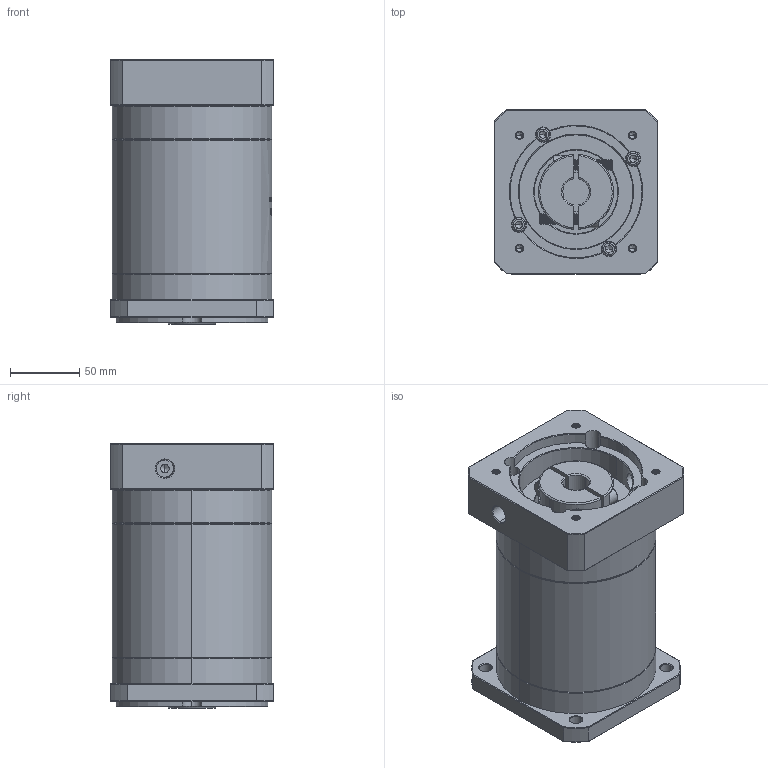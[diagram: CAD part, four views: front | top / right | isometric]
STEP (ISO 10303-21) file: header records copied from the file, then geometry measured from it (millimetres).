
FILE_DESCRIPTION (( 'STEP AP214' ), '1' );
FILE_NAME ('ZF120A-K25-L3-19-95-115-M6.step', '2023-03-07T09:39:00', ( '' ), ( '' ), 'SwSTEP 2.0', 'SolidWorks 2016', '' );
FILE_SCHEMA (( 'AUTOMOTIVE_DESIGN' ));
Length unit declared in the file: millimetre
Products named in the file (1): ZF120A-K25-L3-19-95-115-M6
Bounding box: 118 x 118 x 190.5 mm (x, y, z)
Volume: 1912405.6 mm3; surface area: 176021.5 mm2
Topology: 6 solids, 6 shells, 1904 faces, 5007 edges, 3197 vertices
Faces by surface type: plane 850, cylinder 388, cone 334, bspline 332
Entity records: 101488 total; most frequent: CARTESIAN_POINT 37116, ORIENTED_EDGE 9958, DIRECTION 7772, EDGE_CURVE 4979, VERTEX_POINT 3197, VECTOR 2698, LINE 2698, AXIS2_PLACEMENT_3D 2537
